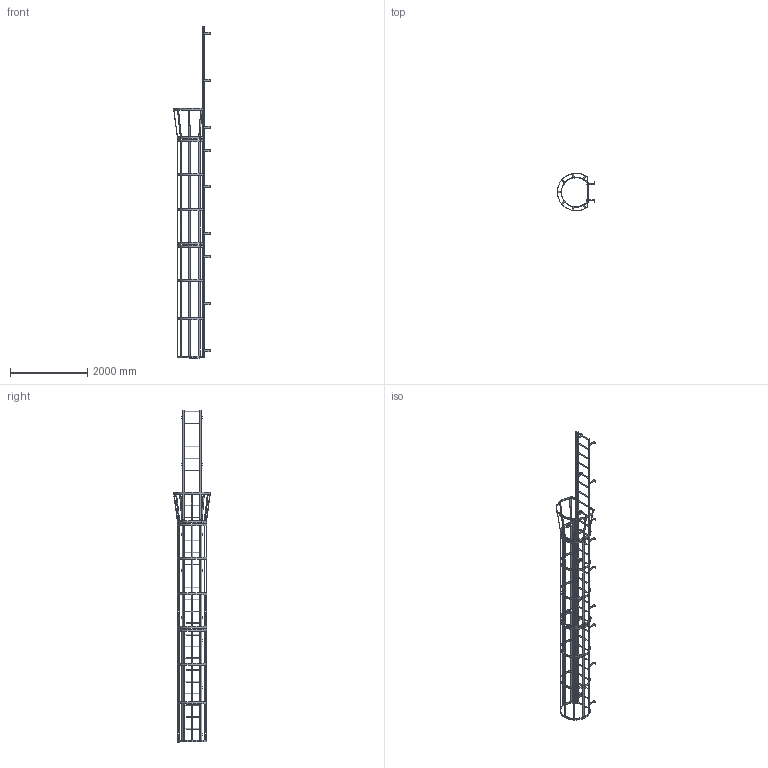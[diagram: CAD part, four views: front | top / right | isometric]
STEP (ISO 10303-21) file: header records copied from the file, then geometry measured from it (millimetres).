
FILE_DESCRIPTION(/* description */ (''),/* implementation_level */ '2;1');
FILE_NAME(/* name */ 'P:\MIKEL & KAREN\D0570195-15 F29SC SIMPLIFIED PART.stp',/* time_stamp */ '2018-07-03T08:09:44-04:00',/* author */ ('stephanie'),/* organization */ (''),/* preprocessor_version */ 'ST-DEVELOPER v16.1',/* originating_system */ 'Autodesk Inventor 2016',/* authorisation */ '');
FILE_SCHEMA (('AUTOMOTIVE_DESIGN { 1 0 10303 214 3 1 1 }'));
Length unit declared in the file: centimetre
Products named in the file (1): D0570195-15 F29SC SIMPLIFIED PART
Bounding box: 974.15 x 977.88 x 8610.6 mm (x, y, z)
Volume: 30055809.6 mm3; surface area: 10607493.6 mm2
Topology: 40 solids, 40 shells, 951 faces, 2889 edges, 1870 vertices
Faces by surface type: plane 640, cylinder 311
Full cylindrical faces by diameter (mm): 14.287 x22, 19.05 x29, 22.225 x58
Entity records: 32706 total; most frequent: ORIENTED_EDGE 5568, CARTESIAN_POINT 5442, DIRECTION 5390, EDGE_CURVE 2700, LINE 1914, VECTOR 1914, VERTEX_POINT 1790, AXIS2_PLACEMENT_3D 1738
